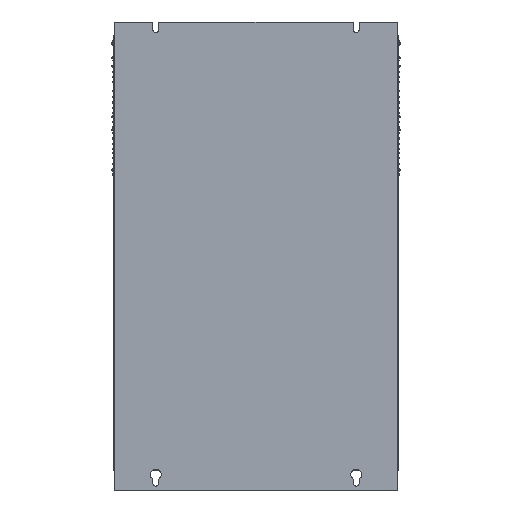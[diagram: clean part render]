
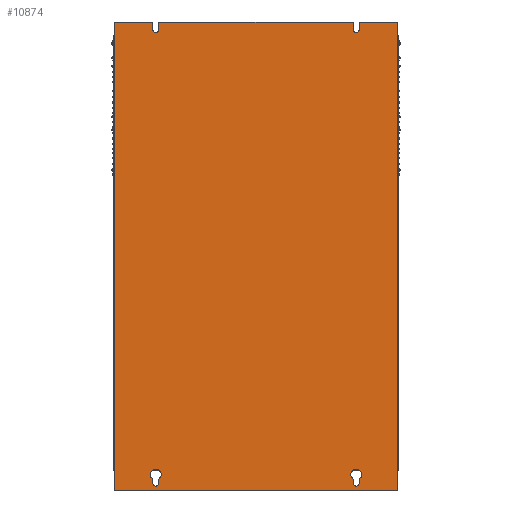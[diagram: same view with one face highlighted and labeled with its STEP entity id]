
A CAD part, front view. The second image highlights one B-rep face of the part: STEP entity #10874.
In plain terms, the highlighted planar face has unit normal (0, -1, 0).
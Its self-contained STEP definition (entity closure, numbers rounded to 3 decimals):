
#1=CARTESIAN_POINT('',(195.,0.,435.));
#2=DIRECTION('',(0.,-1.,0.));
#3=DIRECTION('',(-1.,0.,0.));
#4=AXIS2_PLACEMENT_3D('',#1,#2,#3);
#6=DIRECTION('',(0.,0.,1.));
#7=VECTOR('',#6,15.);
#8=CARTESIAN_POINT('',(200.5,0.,435.));
#9=LINE('',#8,#7);
#10=DIRECTION('',(-1.,0.,0.));
#11=VECTOR('',#10,74.5);
#12=CARTESIAN_POINT('',(275.,0.,450.));
#13=LINE('',#12,#11);
#14=DIRECTION('',(0.,0.,1.));
#15=VECTOR('',#14,910.);
#16=CARTESIAN_POINT('',(275.,0.,-460.));
#17=LINE('',#16,#15);
#18=DIRECTION('',(1.,0.,0.));
#19=VECTOR('',#18,550.);
#20=CARTESIAN_POINT('',(-275.,0.,-460.));
#21=LINE('',#20,#19);
#22=DIRECTION('',(0.,0.,-1.));
#23=VECTOR('',#22,910.);
#24=CARTESIAN_POINT('',(-275.,0.,450.));
#25=LINE('',#24,#23);
#26=DIRECTION('',(-1.,0.,0.));
#27=VECTOR('',#26,74.5);
#28=CARTESIAN_POINT('',(-200.5,0.,450.));
#29=LINE('',#28,#27);
#30=DIRECTION('',(0.,0.,-1.));
#31=VECTOR('',#30,15.);
#32=CARTESIAN_POINT('',(-200.5,0.,450.));
#33=LINE('',#32,#31);
#34=CARTESIAN_POINT('',(-195.,0.,435.));
#35=DIRECTION('',(0.,-1.,0.));
#36=DIRECTION('',(-1.,0.,0.));
#37=AXIS2_PLACEMENT_3D('',#34,#35,#36);
#39=DIRECTION('',(0.,0.,1.));
#40=VECTOR('',#39,15.);
#41=CARTESIAN_POINT('',(-189.5,0.,435.));
#42=LINE('',#41,#40);
#43=DIRECTION('',(-1.,0.,0.));
#44=VECTOR('',#43,379.);
#45=CARTESIAN_POINT('',(189.5,0.,450.));
#46=LINE('',#45,#44);
#47=DIRECTION('',(0.,0.,-1.));
#48=VECTOR('',#47,15.);
#49=CARTESIAN_POINT('',(189.5,0.,450.));
#50=LINE('',#49,#48);
#51=DIRECTION('',(0.,0.,-1.));
#52=VECTOR('',#51,8.056);
#53=CARTESIAN_POINT('',(-200.5,0.,-438.944));
#54=LINE('',#53,#52);
#55=CARTESIAN_POINT('',(-195.,0.,-447.));
#56=DIRECTION('',(0.,-1.,0.));
#57=DIRECTION('',(-1.,0.,0.));
#58=AXIS2_PLACEMENT_3D('',#55,#56,#57);
#60=DIRECTION('',(0.,0.,1.));
#61=VECTOR('',#60,8.056);
#62=CARTESIAN_POINT('',(-189.5,0.,-447.));
#63=LINE('',#62,#61);
#64=CARTESIAN_POINT('',(-195.,0.,-430.));
#65=DIRECTION('',(0.,-1.,0.));
#66=DIRECTION('',(0.524,0.,-0.852));
#67=AXIS2_PLACEMENT_3D('',#64,#65,#66);
#69=CARTESIAN_POINT('',(195.,0.,-447.));
#70=DIRECTION('',(0.,-1.,0.));
#71=DIRECTION('',(-1.,0.,0.));
#72=AXIS2_PLACEMENT_3D('',#69,#70,#71);
#74=DIRECTION('',(0.,0.,1.));
#75=VECTOR('',#74,8.056);
#76=CARTESIAN_POINT('',(200.5,0.,-447.));
#77=LINE('',#76,#75);
#78=CARTESIAN_POINT('',(195.,0.,-430.));
#79=DIRECTION('',(0.,-1.,0.));
#80=DIRECTION('',(0.524,0.,-0.852));
#81=AXIS2_PLACEMENT_3D('',#78,#79,#80);
#83=DIRECTION('',(0.,0.,-1.));
#84=VECTOR('',#83,8.056);
#85=CARTESIAN_POINT('',(189.5,0.,-438.944));
#86=LINE('',#85,#84);
#7575=CARTESIAN_POINT('',(275.,0.,450.));
#7576=VERTEX_POINT('',#7575);
#7577=CARTESIAN_POINT('',(-275.,0.,450.));
#7578=VERTEX_POINT('',#7577);
#8027=CARTESIAN_POINT('',(200.5,0.,435.));
#8028=CARTESIAN_POINT('',(189.5,0.,435.));
#8029=VERTEX_POINT('',#8027);
#8030=VERTEX_POINT('',#8028);
#8031=CARTESIAN_POINT('',(189.5,0.,450.));
#8032=VERTEX_POINT('',#8031);
#8033=CARTESIAN_POINT('',(200.5,0.,450.));
#8034=VERTEX_POINT('',#8033);
#8035=CARTESIAN_POINT('',(-189.5,0.,435.));
#8036=CARTESIAN_POINT('',(-200.5,0.,435.));
#8037=VERTEX_POINT('',#8035);
#8038=VERTEX_POINT('',#8036);
#8039=CARTESIAN_POINT('',(-200.5,0.,450.));
#8040=VERTEX_POINT('',#8039);
#8041=CARTESIAN_POINT('',(-189.5,0.,450.));
#8042=VERTEX_POINT('',#8041);
#10641=CARTESIAN_POINT('',(-275.,0.,-460.));
#10642=VERTEX_POINT('',#10641);
#10643=CARTESIAN_POINT('',(275.,0.,-460.));
#10644=VERTEX_POINT('',#10643);
#10681=CARTESIAN_POINT('',(-200.5,0.,-447.));
#10682=CARTESIAN_POINT('',(-200.5,0.,-438.944));
#10683=VERTEX_POINT('',#10681);
#10684=VERTEX_POINT('',#10682);
#10685=CARTESIAN_POINT('',(-189.5,0.,-438.944));
#10686=VERTEX_POINT('',#10685);
#10687=CARTESIAN_POINT('',(-189.5,0.,-447.));
#10688=VERTEX_POINT('',#10687);
#10689=CARTESIAN_POINT('',(200.5,0.,-447.));
#10690=CARTESIAN_POINT('',(189.5,0.,-447.));
#10691=VERTEX_POINT('',#10689);
#10692=VERTEX_POINT('',#10690);
#10693=CARTESIAN_POINT('',(189.5,0.,-438.944));
#10694=VERTEX_POINT('',#10693);
#10695=CARTESIAN_POINT('',(200.5,0.,-438.944));
#10696=VERTEX_POINT('',#10695);
#10823=CARTESIAN_POINT('',(0.,0.,0.));
#10824=DIRECTION('',(0.,-1.,0.));
#10825=DIRECTION('',(-1.,0.,0.));
#10826=AXIS2_PLACEMENT_3D('',#10823,#10824,#10825);
#10827=PLANE('',#10826);
#10829=ORIENTED_EDGE('',*,*,#10828,.T.);
#10831=ORIENTED_EDGE('',*,*,#10830,.T.);
#10833=ORIENTED_EDGE('',*,*,#10832,.F.);
#10835=ORIENTED_EDGE('',*,*,#10834,.F.);
#10837=ORIENTED_EDGE('',*,*,#10836,.F.);
#10839=ORIENTED_EDGE('',*,*,#10838,.F.);
#10841=ORIENTED_EDGE('',*,*,#10840,.F.);
#10843=ORIENTED_EDGE('',*,*,#10842,.T.);
#10845=ORIENTED_EDGE('',*,*,#10844,.T.);
#10847=ORIENTED_EDGE('',*,*,#10846,.T.);
#10849=ORIENTED_EDGE('',*,*,#10848,.F.);
#10851=ORIENTED_EDGE('',*,*,#10850,.T.);
#10852=EDGE_LOOP('',(#10829,#10831,#10833,#10835,#10837,#10839,#10841,#10843,
#10845,#10847,#10849,#10851));
#10853=FACE_OUTER_BOUND('',#10852,.F.);
#10855=ORIENTED_EDGE('',*,*,#10854,.T.);
#10857=ORIENTED_EDGE('',*,*,#10856,.T.);
#10859=ORIENTED_EDGE('',*,*,#10858,.T.);
#10861=ORIENTED_EDGE('',*,*,#10860,.T.);
#10862=EDGE_LOOP('',(#10855,#10857,#10859,#10861));
#10863=FACE_BOUND('',#10862,.F.);
#10865=ORIENTED_EDGE('',*,*,#10864,.T.);
#10867=ORIENTED_EDGE('',*,*,#10866,.T.);
#10869=ORIENTED_EDGE('',*,*,#10868,.T.);
#10871=ORIENTED_EDGE('',*,*,#10870,.T.);
#10872=EDGE_LOOP('',(#10865,#10867,#10869,#10871));
#10873=FACE_BOUND('',#10872,.F.);
#10874=ADVANCED_FACE('',(#10853,#10863,#10873),#10827,.T.);
#5=CIRCLE('',#4,5.5);
#38=CIRCLE('',#37,5.5);
#59=CIRCLE('',#58,5.5);
#68=CIRCLE('',#67,10.5);
#73=CIRCLE('',#72,5.5);
#82=CIRCLE('',#81,10.5);
#10828=EDGE_CURVE('',#8030,#8029,#5,.T.);
#10830=EDGE_CURVE('',#8029,#8034,#9,.T.);
#10832=EDGE_CURVE('',#7576,#8034,#13,.T.);
#10834=EDGE_CURVE('',#10644,#7576,#17,.T.);
#10836=EDGE_CURVE('',#10642,#10644,#21,.T.);
#10838=EDGE_CURVE('',#7578,#10642,#25,.T.);
#10840=EDGE_CURVE('',#8040,#7578,#29,.T.);
#10842=EDGE_CURVE('',#8040,#8038,#33,.T.);
#10844=EDGE_CURVE('',#8038,#8037,#38,.T.);
#10846=EDGE_CURVE('',#8037,#8042,#42,.T.);
#10848=EDGE_CURVE('',#8032,#8042,#46,.T.);
#10850=EDGE_CURVE('',#8032,#8030,#50,.T.);
#10854=EDGE_CURVE('',#10684,#10683,#54,.T.);
#10856=EDGE_CURVE('',#10683,#10688,#59,.T.);
#10858=EDGE_CURVE('',#10688,#10686,#63,.T.);
#10860=EDGE_CURVE('',#10686,#10684,#68,.T.);
#10864=EDGE_CURVE('',#10692,#10691,#73,.T.);
#10866=EDGE_CURVE('',#10691,#10696,#77,.T.);
#10868=EDGE_CURVE('',#10696,#10694,#82,.T.);
#10870=EDGE_CURVE('',#10694,#10692,#86,.T.);
